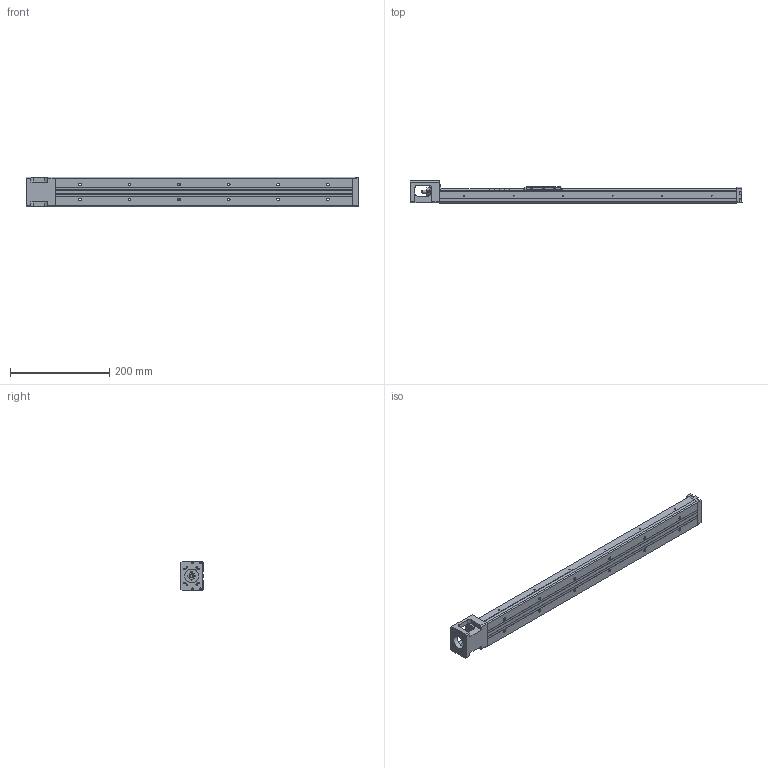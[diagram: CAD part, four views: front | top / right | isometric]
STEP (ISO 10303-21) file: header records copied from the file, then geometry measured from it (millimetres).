
FILE_DESCRIPTION(/* description */ (''),/* implementation_level */ '2;1');
FILE_NAME(/* name */ 'KP33N-600C02-1.stp',/* time_stamp */ '2020-07-01T11:47:08+08:00',/* author */ (''),/* organization */ (''),/* preprocessor_version */ 'ST-DEVELOPER v14',/* originating_system */ 'SIEMENS PLM Software NX 8.0',/* authorisation */ '');
FILE_SCHEMA (('AUTOMOTIVE_DESIGN { 1 0 10303 214 3 1 1 1 }'));
Length unit declared in the file: millimetre
Products named in the file (1): model1
Bounding box: 670 x 44.45 x 60 mm (x, y, z)
Volume: 692027.1 mm3; surface area: 194075 mm2
Topology: 5 solids, 14 shells, 684 faces, 1730 edges, 1141 vertices
Faces by surface type: plane 395, cylinder 206, bspline 31, cone 22, extrusion 21, torus 7, sphere 2
Full cylindrical faces by diameter (mm): 1.6 x6, 1.65 x4, 2.15 x6, 2.42 x4, 2.45 x2, 2.5 x16, 3 x3, 3.2 x4, 3.3 x4, 3.4 x3, 3.5 x10, 3.969 x1, 4 x6, 4.001 x1, 4.135 x4, 5.5 x12, 6 x5, 7.6 x1, 8 x5, 9.5 x12, 10.72 x3, 11.8 x2, 12 x6, 12.8 x1, 13 x2, 14 x1, 16 x4, 21.5 x1, 28 x1
Entity records: 30970 total; most frequent: CARTESIAN_POINT 15433, DIRECTION 3125, ORIENTED_EDGE 2988, EDGE_CURVE 1494, AXIS2_PLACEMENT_3D 1128, VERTEX_POINT 1064, EDGE_LOOP 982, VECTOR 869
